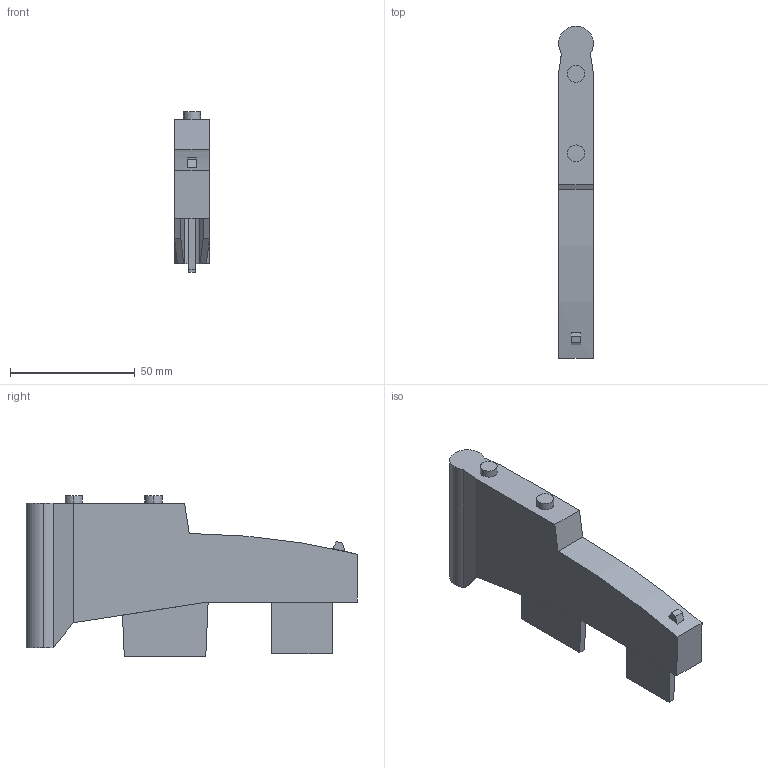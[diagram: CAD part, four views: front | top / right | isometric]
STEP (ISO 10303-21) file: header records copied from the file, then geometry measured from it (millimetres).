
FILE_DESCRIPTION (( 'STEP AP214' ), '1' );
FILE_NAME ('Magic Optima Profil-Halter Solowing.STEP', '2010-08-17T12:23:50', ( 'grass' ), ( '' ), 'SwSTEP 2.0', 'SolidWorks 2010', '' );
FILE_SCHEMA (( 'AUTOMOTIVE_DESIGN' ));
Length unit declared in the file: millimetre
Products named in the file (1): Magic Optima Profil-Halter Solowing
Bounding box: 14 x 133.25 x 64.5 mm (x, y, z)
Volume: 36727.8 mm3; surface area: 29859.8 mm2
Topology: 1 solids, 1 shells, 50 faces, 130 edges, 86 vertices
Faces by surface type: plane 38, cylinder 12
Entity records: 1562 total; most frequent: CARTESIAN_POINT 270, DIRECTION 261, ORIENTED_EDGE 260, EDGE_CURVE 130, LINE 99, VECTOR 99, VERTEX_POINT 86, AXIS2_PLACEMENT_3D 81
